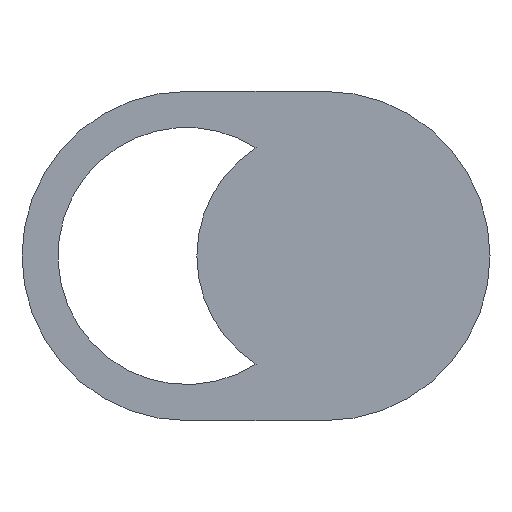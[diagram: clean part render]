
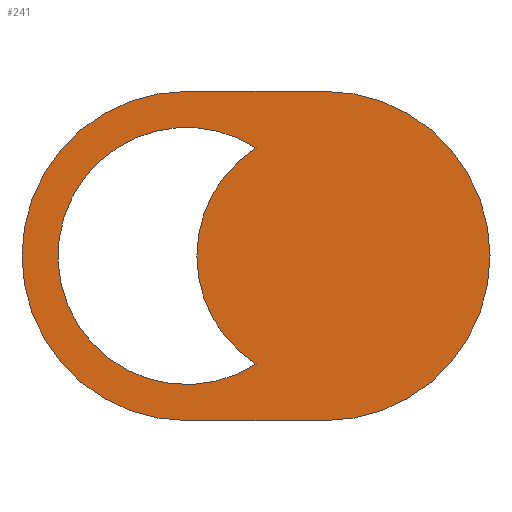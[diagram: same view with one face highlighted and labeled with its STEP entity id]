
A CAD part, front view. The second image highlights one B-rep face of the part: STEP entity #241.
In plain terms, the highlighted planar face has unit normal (0, -1, 0).
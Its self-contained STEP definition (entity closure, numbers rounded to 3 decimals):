
#241 = ADVANCED_FACE( '', ( #598, #599 ), #600, .F. );
#253 = EDGE_CURVE( '', #459, #291, #612, .T. );
#255 = VERTEX_POINT( '', #614 );
#267 = VERTEX_POINT( '', #627 );
#289 = VERTEX_POINT( '', #654 );
#291 = VERTEX_POINT( '', #656 );
#327 = EDGE_CURVE( '', #529, #255, #700, .T. );
#345 = EDGE_CURVE( '', #441, #529, #719, .T. );
#369 = EDGE_CURVE( '', #267, #289, #743, .T. );
#431 = EDGE_CURVE( '', #289, #459, #808, .T. );
#441 = VERTEX_POINT( '', #821 );
#459 = VERTEX_POINT( '', #844 );
#481 = EDGE_CURVE( '', #291, #267, #870, .T. );
#485 = EDGE_CURVE( '', #255, #441, #874, .T. );
#529 = VERTEX_POINT( '', #922 );
#598 = FACE_BOUND( '', #1002, .T. );
#599 = FACE_OUTER_BOUND( '', #1003, .T. );
#600 = PLANE( '', #1004 );
#612 = LINE( '', #1020, #1021 );
#614 = CARTESIAN_POINT( '', ( -32., -18., 46.042 ) );
#627 = CARTESIAN_POINT( '', ( -18.5, -18., 57. ) );
#654 = CARTESIAN_POINT( '', ( 8.5, -18., 57. ) );
#656 = CARTESIAN_POINT( '', ( -18.5, -18., -7. ) );
#700 = CIRCLE( '', #1125, 25. );
#719 = CIRCLE( '', #1149, 25. );
#743 = LINE( '', #1185, #1186 );
#808 = CIRCLE( '', #1286, 32. );
#821 = CARTESIAN_POINT( '', ( -5., -18., 46.042 ) );
#844 = CARTESIAN_POINT( '', ( 8.5, -18., -7. ) );
#870 = CIRCLE( '', #1359, 32. );
#874 = CIRCLE( '', #1364, 25. );
#922 = CARTESIAN_POINT( '', ( -5., -18., 3.958 ) );
#1002 = EDGE_LOOP( '', ( #1478, #1479, #1480 ) );
#1003 = EDGE_LOOP( '', ( #1481, #1482, #1483, #1484 ) );
#1004 = AXIS2_PLACEMENT_3D( '', #1485, #1486, #1487 );
#1020 = CARTESIAN_POINT( '', ( 8.5, -18., -7. ) );
#1021 = VECTOR( '', #1497, 1. );
#1125 = AXIS2_PLACEMENT_3D( '', #1620, #1621, #1622 );
#1149 = AXIS2_PLACEMENT_3D( '', #1638, #1639, #1640 );
#1185 = CARTESIAN_POINT( '', ( -18.5, -18., 57. ) );
#1186 = VECTOR( '', #1649, 1. );
#1286 = AXIS2_PLACEMENT_3D( '', #1711, #1712, #1713 );
#1359 = AXIS2_PLACEMENT_3D( '', #1826, #1827, #1828 );
#1364 = AXIS2_PLACEMENT_3D( '', #1829, #1830, #1831 );
#1478 = ORIENTED_EDGE( '', *, *, #345, .T. );
#1479 = ORIENTED_EDGE( '', *, *, #327, .T. );
#1480 = ORIENTED_EDGE( '', *, *, #485, .T. );
#1481 = ORIENTED_EDGE( '', *, *, #369, .F. );
#1482 = ORIENTED_EDGE( '', *, *, #481, .F. );
#1483 = ORIENTED_EDGE( '', *, *, #253, .F. );
#1484 = ORIENTED_EDGE( '', *, *, #431, .F. );
#1485 = CARTESIAN_POINT( '', ( 0., -18., 0. ) );
#1486 = DIRECTION( '', ( 0., 1., 0. ) );
#1487 = DIRECTION( '', ( 0., 0., 1. ) );
#1497 = DIRECTION( '', ( -1., 0., 0. ) );
#1620 = CARTESIAN_POINT( '', ( -18.5, -18., 25. ) );
#1621 = DIRECTION( '', ( 0., 1., 0. ) );
#1622 = DIRECTION( '', ( 0.54, 0., -0.842 ) );
#1638 = CARTESIAN_POINT( '', ( 8.5, -18., 25. ) );
#1639 = DIRECTION( '', ( 0., -1., 0. ) );
#1640 = DIRECTION( '', ( -0.54, 0., 0.842 ) );
#1649 = DIRECTION( '', ( 1., 0., 0. ) );
#1711 = CARTESIAN_POINT( '', ( 8.5, -18., 25. ) );
#1712 = DIRECTION( '', ( 0., 1., 0. ) );
#1713 = DIRECTION( '', ( 0., 0., 1. ) );
#1826 = CARTESIAN_POINT( '', ( -18.5, -18., 25. ) );
#1827 = DIRECTION( '', ( 0., 1., 0. ) );
#1828 = DIRECTION( '', ( 0., 0., -1. ) );
#1829 = CARTESIAN_POINT( '', ( -18.5, -18., 25. ) );
#1830 = DIRECTION( '', ( 0., 1., 0. ) );
#1831 = DIRECTION( '', ( 0.54, 0., -0.842 ) );
